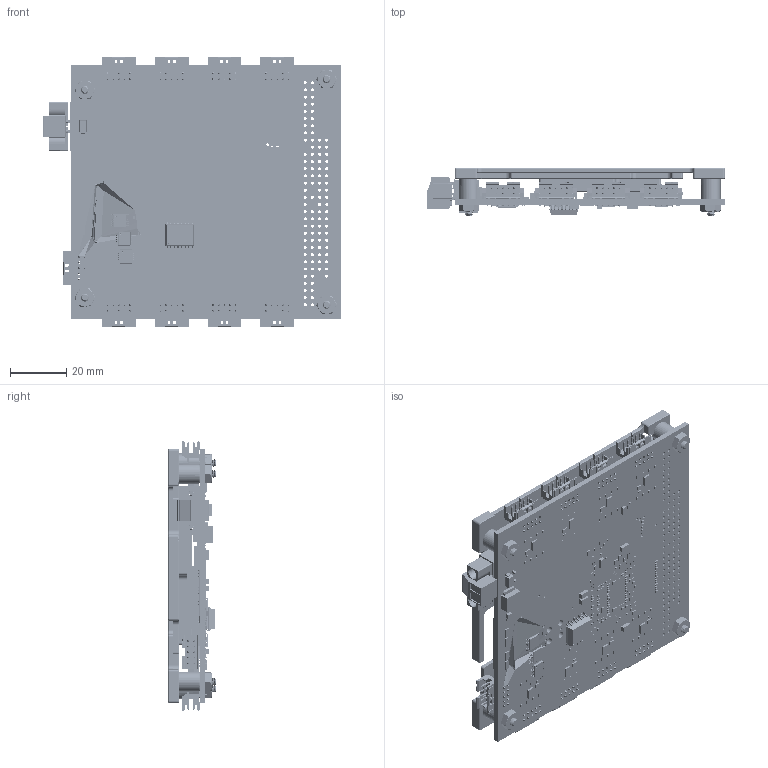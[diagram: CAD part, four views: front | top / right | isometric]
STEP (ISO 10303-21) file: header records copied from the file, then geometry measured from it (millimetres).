
FILE_DESCRIPTION (( 'STEP AP214' ), '1' );
FILE_NAME ('Assembly(0.01) Conduction Cooled XDG019.STEP', '2016-03-31T18:37:24', ( '' ), ( '' ), 'SwSTEP 2.0', 'SolidWorks 2015', '' );
FILE_SCHEMA (( 'AUTOMOTIVE_DESIGN' ));
Length unit declared in the file: inch
Products named in the file (8): Assembly(0.01) Conduction Cooled XDG019; 21464 Loctite 222 Threadlocker; GR45A-0H-50GY Thermal Pad, 1.00X1.00_50GR-ae; 92146A530 Lockwasher, #4, Split, SS_92146A530; 91841A005 Nut, 4-40, SS_91841A005; 91772A111 Screw, 4-40X.563 PPHMS, SS_91772A111; XDG007_3D_MODEL; CTIA-00575 REV 0.01  Heat Plate - Top, Conduction Cooled XDG
Assembly tree (15 placements, depth 2):
  Assembly(0.01) Conduction Cooled XDG019
    CTIA-00575 REV 0.01  Heat Plate - Top, Conduction Cooled XDG
    XDG007_3D_MODEL
    91772A111 Screw, 4-40X.563 PPHMS, SS_91772A111  x4
    91841A005 Nut, 4-40, SS_91841A005  x4
    92146A530 Lockwasher, #4, Split, SS_92146A530  x4
    GR45A-0H-50GY Thermal Pad, 1.00X1.00_50GR-ae
  21464 Loctite 222 Threadlocker
Bounding box: 105.67 x 16.7 x 95.65 mm (x, y, z)
Volume: 27865.7 mm3; surface area: 54937 mm2
Topology: 14 solids, 1176 shells, 9518 faces, 36300 edges, 27137 vertices
Faces by surface type: plane 7536, cylinder 1636, cone 261, bspline 61, torus 16, sphere 8
Entity records: 468901 total; most frequent: CARTESIAN_POINT 80583, DIRECTION 55060, ORIENTED_EDGE 50345, EDGE_CURVE 34490, LINE 29476, VECTOR 29476, VERTEX_POINT 25978, AXIS2_PLACEMENT_3D 12792
